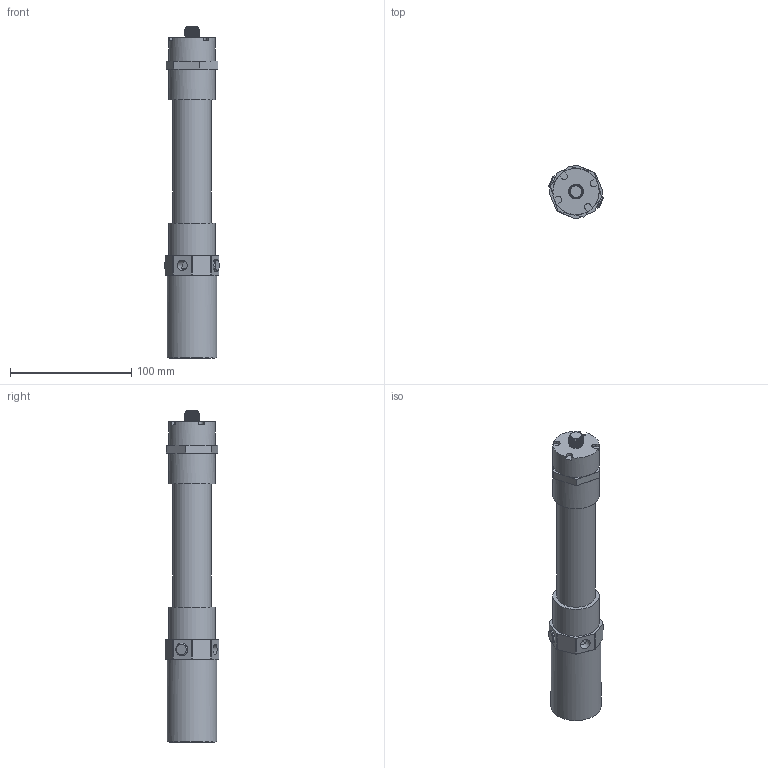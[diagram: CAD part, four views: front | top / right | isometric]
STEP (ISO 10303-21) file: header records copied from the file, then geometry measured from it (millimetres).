
FILE_DESCRIPTION(/* description */ (''),/* implementation_level */ '2;1');
FILE_NAME(/* name */ 'ASSY,VFIA,22MM,CLAMP MOUNT,100MM,S4 (614-49569) STEP FILE - REV C.stp',/* time_stamp */ '2026-01-21T08:25:47-05:00',/* author */ ('ASSY,VFIA,22MM,CLAMP MOUNT,100MM,S4'),/* organization */ ('CenterLine (Windsor) Limited'),/* preprocessor_version */ 'ST-DEVELOPER v20',/* originating_system */ 'Autodesk Inventor 2024',/* authorisation */ '');
FILE_SCHEMA (('AUTOMOTIVE_DESIGN { 1 0 10303 214 3 1 1 }'));
Length unit declared in the file: centimetre
Products named in the file (2): Assembly7; [Primary]_ASSY,VFIA,22MM,CLAMP MOUNT,100MM,S4
Assembly tree (1 placements, depth 2):
  Assembly7
    [Primary]_ASSY,VFIA,22MM,CLAMP MOUNT,100MM,S4
Bounding box: 45.13 x 44.45 x 273.87 mm (x, y, z)
Volume: 283664.2 mm3; surface area: 35934.9 mm2
Topology: 1 solids, 1 shells, 118 faces, 291 edges, 186 vertices
Faces by surface type: plane 66, cylinder 33, bspline 9, cone 8, torus 2
Full cylindrical faces by diameter (mm): 8.731 x2, 10 x1, 10.6 x2, 12 x5, 31.75 x1, 38.1 x3, 41.275 x1
Entity records: 9013 total; most frequent: CARTESIAN_POINT 6154, DIRECTION 584, ORIENTED_EDGE 582, EDGE_CURVE 291, AXIS2_PLACEMENT_3D 218, VERTEX_POINT 185, LINE 148, VECTOR 148
